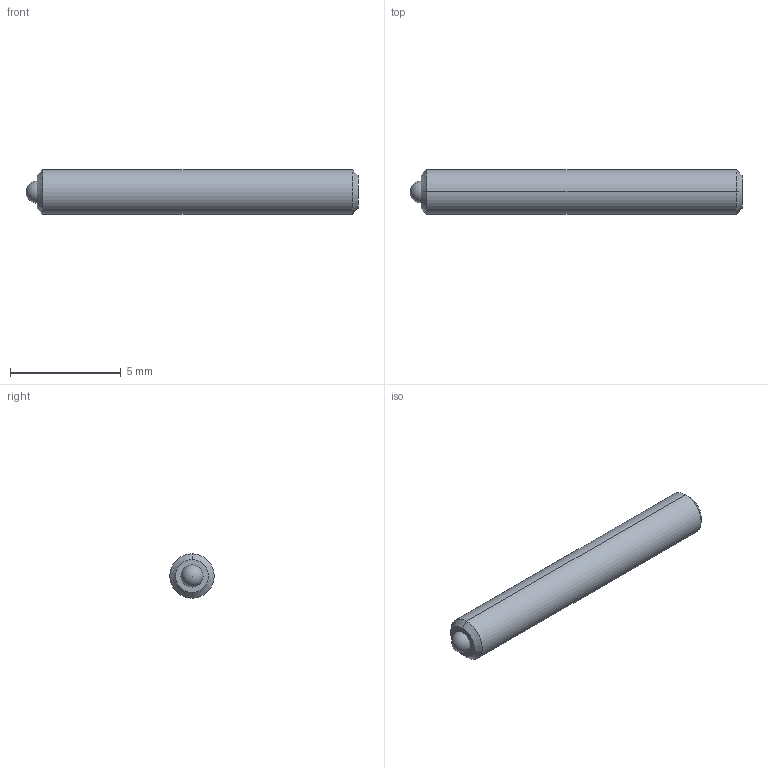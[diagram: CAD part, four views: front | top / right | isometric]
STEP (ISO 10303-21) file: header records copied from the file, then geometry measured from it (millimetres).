
FILE_DESCRIPTION (( 'STEP AP214' ), '1' );
FILE_NAME ('TS2-25-15.STEP', '2013-02-17T16:48:45', ( 'workpc' ), ( 'Microsoft' ), 'SwSTEP 2.0', 'SolidWorks 2013', '' );
FILE_SCHEMA (( 'AUTOMOTIVE_DESIGN' ));
Length unit declared in the file: millimetre
Products named in the file (1): TS2-25-15
Bounding box: 15 x 2 x 2 mm (x, y, z)
Volume: 43.9 mm3; surface area: 106.3 mm2
Topology: 2 solids, 2 shells, 20 faces, 45 edges, 29 vertices
Faces by surface type: plane 10, cylinder 4, cone 4, sphere 2
Entity records: 587 total; most frequent: DIRECTION 96, CARTESIAN_POINT 87, ORIENTED_EDGE 80, EDGE_CURVE 40, AXIS2_PLACEMENT_3D 35, LINE 26, VECTOR 26, VERTEX_POINT 26
